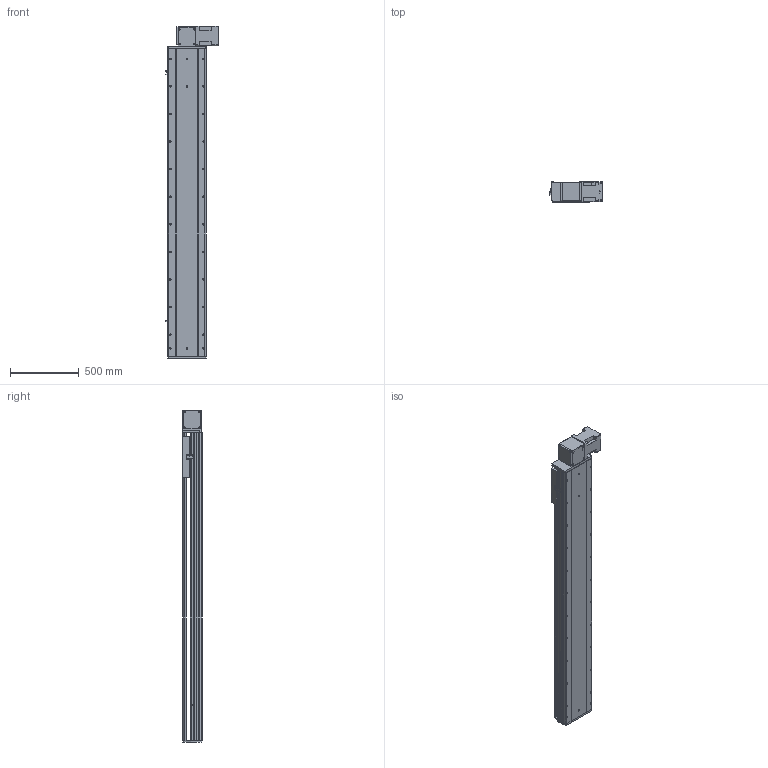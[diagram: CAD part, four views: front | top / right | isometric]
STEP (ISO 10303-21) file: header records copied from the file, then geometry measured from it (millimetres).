
FILE_DESCRIPTION (( 'STEP AP214' ), '1' );
FILE_NAME ('RTB28S-XX-1800-BL-M100-XX-C4.STEP', '2025-12-22T02:26:08', ( '' ), ( '' ), 'SwSTEP 2.0', 'SolidWorks 2018', '' );
FILE_SCHEMA (( 'AUTOMOTIVE_DESIGN' ));
Length unit declared in the file: millimetre
Products named in the file (4): RTB28S-GY-011^RTB28S-XX-XX-BL-M100-XX-C4; RTB28S-GY-008^RTB28S-XX-XX-BL-M100-XX-C4; RTB28S-XX-1800-BL-M100-XX-C4; RTB28S-GY-004^RTB28S-XX-XX-BL-M100-XX-C4
Assembly tree (3 placements, depth 2):
  RTB28S-XX-1800-BL-M100-XX-C4
    RTB28S-GY-011^RTB28S-XX-XX-BL-M100-XX-C4
    RTB28S-GY-004^RTB28S-XX-XX-BL-M100-XX-C4
    RTB28S-GY-008^RTB28S-XX-XX-BL-M100-XX-C4
Bounding box: 380.7 x 145 x 2407 mm (x, y, z)
Volume: 42210075.4 mm3; surface area: 3998867.4 mm2
Topology: 3 solids, 4 shells, 828 faces, 2208 edges, 1408 vertices
Faces by surface type: cylinder 391, plane 353, cone 80, torus 4
Entity records: 31457 total; most frequent: CARTESIAN_POINT 5602, DIRECTION 4686, ORIENTED_EDGE 4352, EDGE_CURVE 2176, AXIS2_PLACEMENT_3D 1708, VERTEX_POINT 1408, LINE 1270, VECTOR 1270
